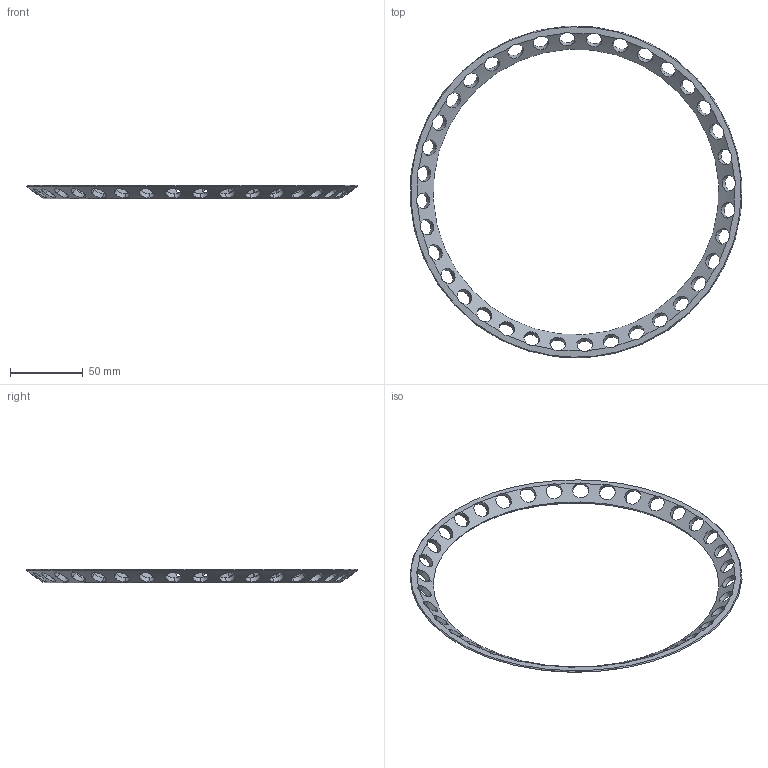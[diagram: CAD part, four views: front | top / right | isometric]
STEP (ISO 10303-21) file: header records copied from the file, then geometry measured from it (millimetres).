
FILE_DESCRIPTION(('CATIA V5 STEP Exchange'),'2;1');
FILE_NAME('D:\交接\张长江\21-Benz H6\光华荣昌转盘数据\H6 转盘\转盘用整椅数据 A9609109920\sample\H6 转盘夏季测试样件方案_20240617\样件数据\塑料件\SHT0017294-001 外层滚珠保持架.stp','2024-06-19T03:51:54+00:00',('none'),('none'),'CATIA Version 5 Release 20 GA (IN-10)','CATIA V5 STEP AP203 Edition 2','none');
FILE_SCHEMA(('AP203_CONFIGURATION_CONTROLLED_3D_DESIGN_OF_MECHANICAL_PARTS_AND_ASSEMBLIES_MIM_LF { 1 0 10303 403 2 1 2}'));
Length unit declared in the file: millimetre
Products named in the file (1): SHT0017294-000
Bounding box: 227.82 x 227.82 x 9.6 mm (x, y, z)
Volume: 24016.8 mm3; surface area: 23085.9 mm2
Topology: 1 solids, 1 shells, 154 faces, 560 edges, 370 vertices
Faces by surface type: cylinder 144, cone 8, plane 2
Entity records: 7084 total; most frequent: CARTESIAN_POINT 2970, ORIENTED_EDGE 1120, EDGE_CURVE 560, DIRECTION 468, B_SPLINE_CURVE_WITH_KNOTS 402, VERTEX_POINT 370, EDGE_LOOP 190, AXIS2_PLACEMENT_3D 160
